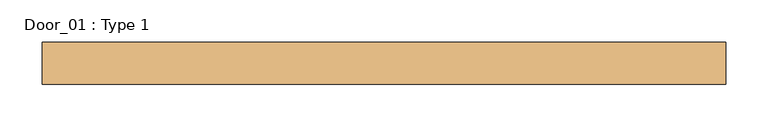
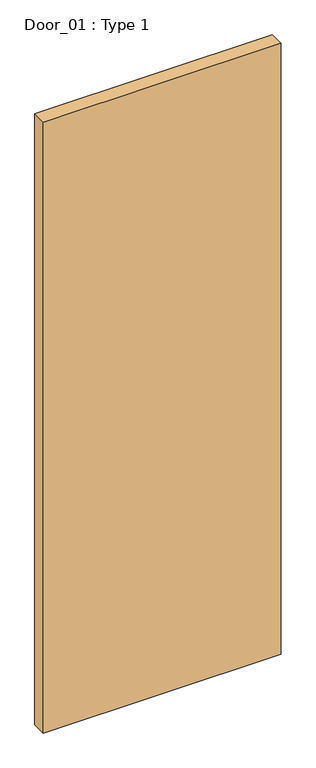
"""IFC4 building model written with IfcOpenShell, lengths in millimetres: door geometry, Door_01 : Type 1."""

from ifc_helpers import new_model, si_unit, origin, origin_with_axes, place, context, project, spatial, polyline, outline, extrude, source, transform, mapped, element, save


def door_01_type_1_33371314(model_context):
    return source(origin(), model_context, "Body", "SweptSolid", [
        extrude(outline(polyline([(405.0, -25.0), (405.0, -75.0), (-405.0, -75.0), (-405.0, -25.0), (405.0, -25.0)])), origin_with_axes(), (0.0, 0.0, 1.0), 2200.0),
    ])


if __name__ == "__main__":
    model = new_model("IFC4")
    model_context = context("Model", 3, world=origin())
    ifc_project = project(units=[si_unit("LENGTHUNIT", "METRE", prefix="MILLI")], contexts=[model_context])
    site = spatial("IfcSite", under=ifc_project)
    building = spatial("IfcBuilding", under=site)
    placement = place(None, origin())
    door_01_type_1_shape = door_01_type_1_33371314(model_context)
    element("IfcDoor", 1, ObjectType="Door_01 : Type 1", at=placement, inside=building, context=model_context, shape_type="MappedRepresentation", body=[
        mapped(door_01_type_1_shape, transform((0.0, 0.0, 0.0), x_axis=(1.0, 0.0, 0.0), y_axis=(0.0, 1.0, 0.0), z_axis=(0.0, 0.0, 1.0))),
    ])
    save(model, "model.ifc")
